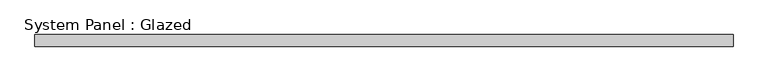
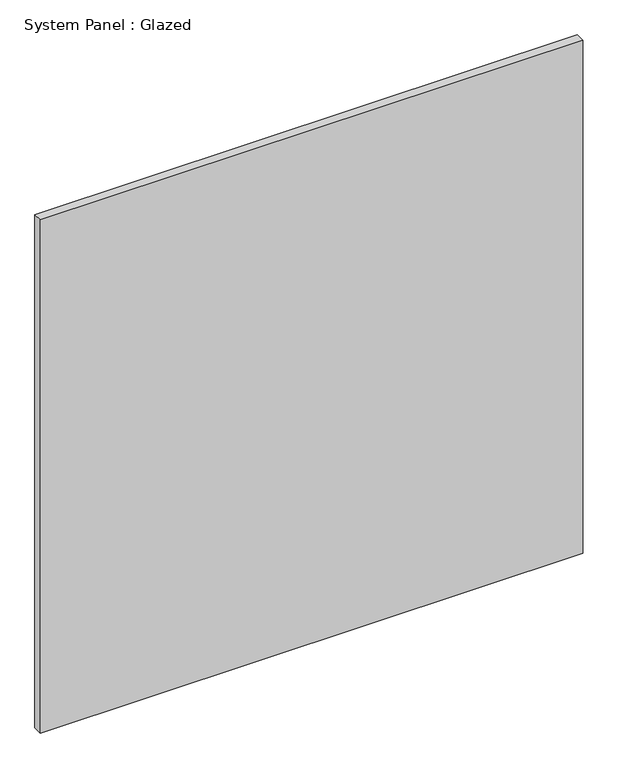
"""IFC4 building model written with IfcOpenShell, lengths in millimetres: plate geometry, System Panel : Glazed."""

from ifc_helpers import new_model, si_unit, origin, origin_with_axes, place, context, project, spatial, polyline, outline, extrude, source, transform, mapped, element, save


def system_panel_glazed_f8555db4(model_context):
    return source(origin(), model_context, "Body", "SweptSolid", [
        extrude(outline(polyline([(733.425, 19.05), (-733.425, 19.05), (-733.425, 44.45), (733.425, 44.45), (733.425, 19.05)])), origin_with_axes(), (0.0, 0.0, 1.0), 1466.85),
    ])


if __name__ == "__main__":
    model = new_model("IFC4")
    model_context = context("Model", 3, world=origin())
    ifc_project = project(units=[si_unit("LENGTHUNIT", "METRE", prefix="MILLI")], contexts=[model_context])
    site = spatial("IfcSite", under=ifc_project)
    building = spatial("IfcBuilding", under=site)
    placement = place(None, origin())
    system_panel_glazed_shape = system_panel_glazed_f8555db4(model_context)
    element("IfcPlate", 1, ObjectType="System Panel : Glazed", at=placement, inside=building, context=model_context, shape_type="MappedRepresentation", body=[
        mapped(system_panel_glazed_shape, transform((0.0, 0.0, 0.0), x_axis=(1.0, 0.0, 0.0), y_axis=(0.0, 1.0, 0.0), z_axis=(0.0, 0.0, 1.0))),
    ])
    save(model, "model.ifc")
